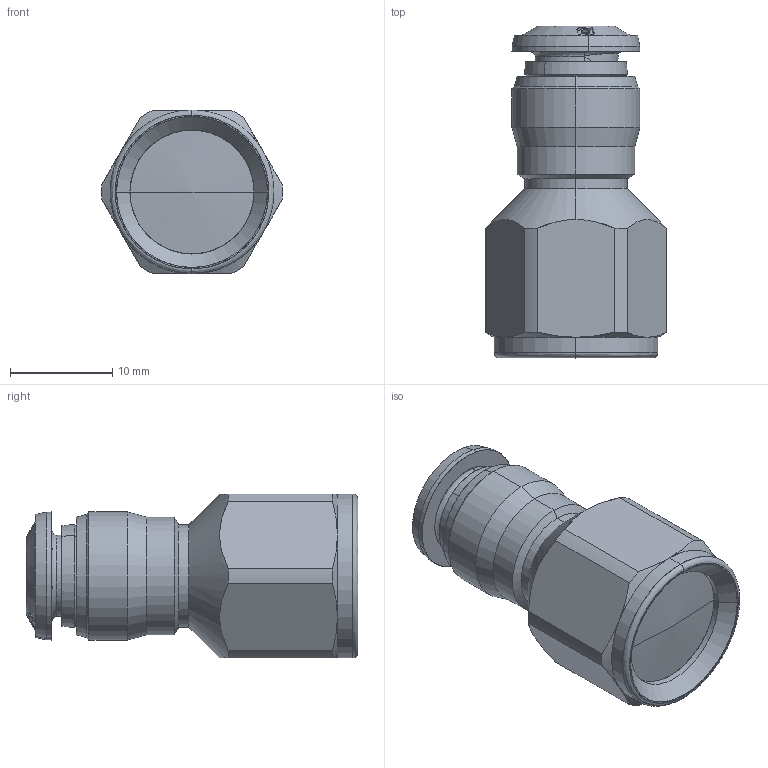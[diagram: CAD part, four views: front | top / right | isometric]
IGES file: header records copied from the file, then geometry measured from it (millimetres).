
Start section: SolidWorks IGES file using analytic representation for surfaces
Global section: file name: K:\Disegni Esecutivi\Alpha Technologies\Assiemi-88000\88030\88030_iges\8803000006A.IGS; native system: SolidWorks 2009; preprocessor: SolidWorks 2009; author: cad05; date: 091026.180029; units: millimetre
Bounding box: 17.7 x 32.4 x 16 mm (x, y, z)
Surface area: 2011 mm2 (no closed solid volume)
Topology: 0 solids, 0 shells, 153 faces, 1428 edges, 1424 vertices
Faces by surface type: revolution 78, bspline 75
